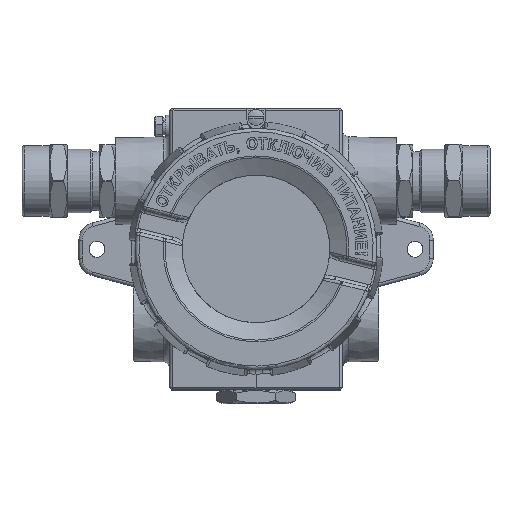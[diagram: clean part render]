
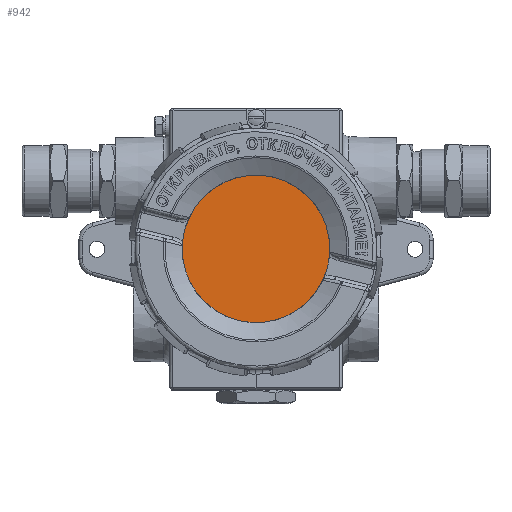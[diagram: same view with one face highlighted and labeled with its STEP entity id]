
A CAD part, top view. The second image highlights one B-rep face of the part: STEP entity #942.
In plain terms, the highlighted planar face has unit normal (0, 0, 1).
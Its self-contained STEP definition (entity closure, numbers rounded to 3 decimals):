
#942=ADVANCED_FACE('',(#44360),#44362,.T.);
#44360=FACE_BOUND('',#44361,.T.);
#44361=EDGE_LOOP('',(#50187));
#44362=PLANE('',#44363);
#44363=AXIS2_PLACEMENT_3D('',#44364,#44365,#44366);
#44364=CARTESIAN_POINT('',(0.,0.,107.5));
#44365=DIRECTION('',(0.,0.,1.));
#44366=DIRECTION('',(-0.227,-0.974,0.));
#50187=ORIENTED_EDGE('',*,*,#54637,.T.);
#54637=EDGE_CURVE('',#59224,#59224,#59225,.T.);
#59224=VERTEX_POINT('',#92937);
#59225=CIRCLE('',#92938,32.5);
#92937=CARTESIAN_POINT('',(7.692,31.577,107.5));
#92938=AXIS2_PLACEMENT_3D('',#92939,#92940,#92941);
#92939=CARTESIAN_POINT('',(0.,0.,107.5));
#92940=DIRECTION('',(0.,0.,1.));
#92941=DIRECTION('',(0.237,0.972,0.));
